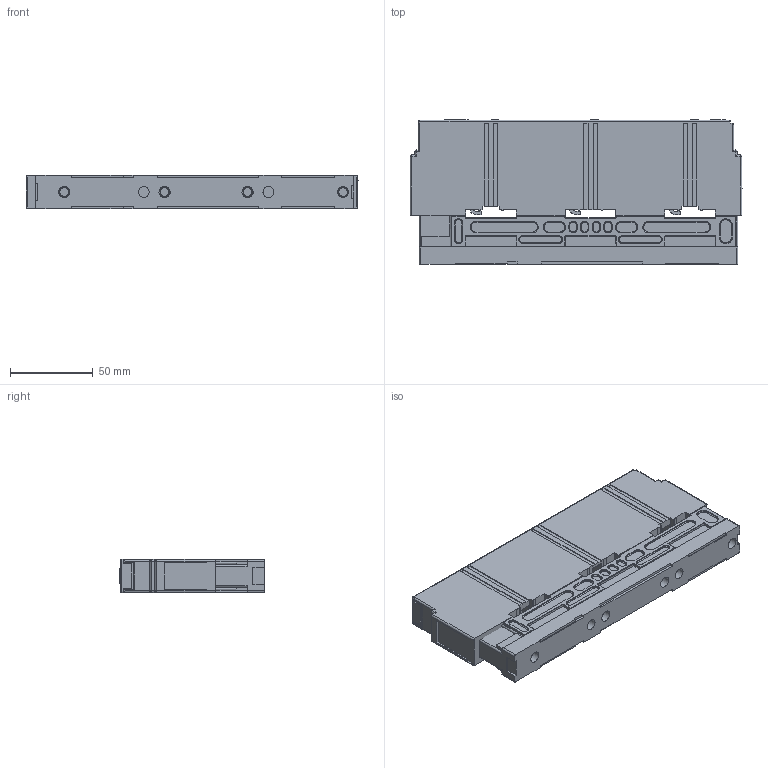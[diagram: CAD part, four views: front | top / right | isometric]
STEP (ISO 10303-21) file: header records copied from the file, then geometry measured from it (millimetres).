
FILE_DESCRIPTION (( 'STEP AP214' ), '1' );
FILE_NAME ('52009.STEP', '2021-08-11T00:11:31', ( '' ), ( '' ), 'SwSTEP 2.0', 'SolidWorks 2017', '' );
FILE_SCHEMA (( 'AUTOMOTIVE_DESIGN' ));
Length unit declared in the file: millimetre
Products named in the file (2): 52009
Bounding box: 200 x 87.3 x 20.04 mm (x, y, z)
Volume: 287793.5 mm3; surface area: 88267.2 mm2
Topology: 2 solids, 25 shells, 2021 faces, 5396 edges, 3500 vertices
Faces by surface type: plane 1389, cylinder 455, bspline 155, cone 22
Full cylindrical faces by diameter (mm): 4.4 x6, 5.2 x4, 5.5 x4, 6.5 x2, 6.8 x4, 7 x3, 8.5 x4, 9.3 x4, 11 x2
Entity records: 91072 total; most frequent: CARTESIAN_POINT 21823, ORIENTED_EDGE 10664, DIRECTION 9085, EDGE_CURVE 5332, VECTOR 4085, LINE 4085, VERTEX_POINT 3489, AXIS2_PLACEMENT_3D 2500
